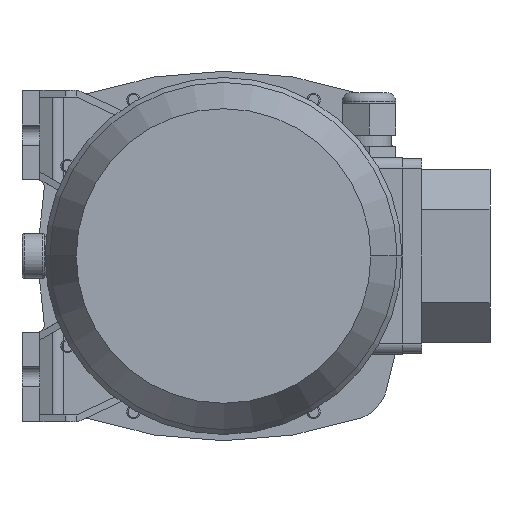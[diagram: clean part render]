
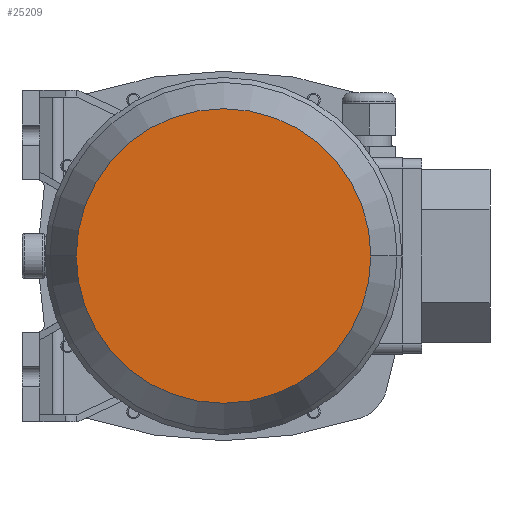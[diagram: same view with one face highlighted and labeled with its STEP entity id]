
A CAD part, front view. The second image highlights one B-rep face of the part: STEP entity #25209.
In plain terms, the highlighted planar face has unit normal (0, -1, 0) as drawn and (1, 0, 0) by its records, which use the part's own axes.
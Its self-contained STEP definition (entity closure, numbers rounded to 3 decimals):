
#18521=CARTESIAN_POINT('',(228.,0.,0.));
#18522=DIRECTION('',(-1.,0.,0.));
#18523=DIRECTION('',(0.,1.,0.));
#18524=AXIS2_PLACEMENT_3D('',#18521,#18522,#18523);
#18529=CARTESIAN_POINT('',(228.,0.,0.));
#18530=DIRECTION('',(1.,0.,0.));
#18531=DIRECTION('',(0.,1.,0.));
#18532=AXIS2_PLACEMENT_3D('',#18529,#18530,#18531);
#20502=CARTESIAN_POINT('',(228.,65.794,0.));
#20504=VERTEX_POINT('',#20502);
#20512=CARTESIAN_POINT('',(228.,-65.794,0.));
#20514=VERTEX_POINT('',#20512);
#25200=CARTESIAN_POINT('',(228.,0.,0.));
#25201=DIRECTION('',(1.,0.,0.));
#25202=DIRECTION('',(0.,-1.,0.));
#25203=AXIS2_PLACEMENT_3D('',#25200,#25201,#25202);
#25204=PLANE('',#25203);
#25205=ORIENTED_EDGE('',*,*,#25182,.T.);
#25206=ORIENTED_EDGE('',*,*,#25193,.F.);
#25207=EDGE_LOOP('',(#25205,#25206));
#25208=FACE_OUTER_BOUND('',#25207,.F.);
#18525=CIRCLE('',#18524,65.794);
#18533=CIRCLE('',#18532,65.794);
#25182=EDGE_CURVE('',#20504,#20514,#18525,.T.);
#25193=EDGE_CURVE('',#20504,#20514,#18533,.T.);
#25209=ADVANCED_FACE('',(#25208),#25204,.T.);
